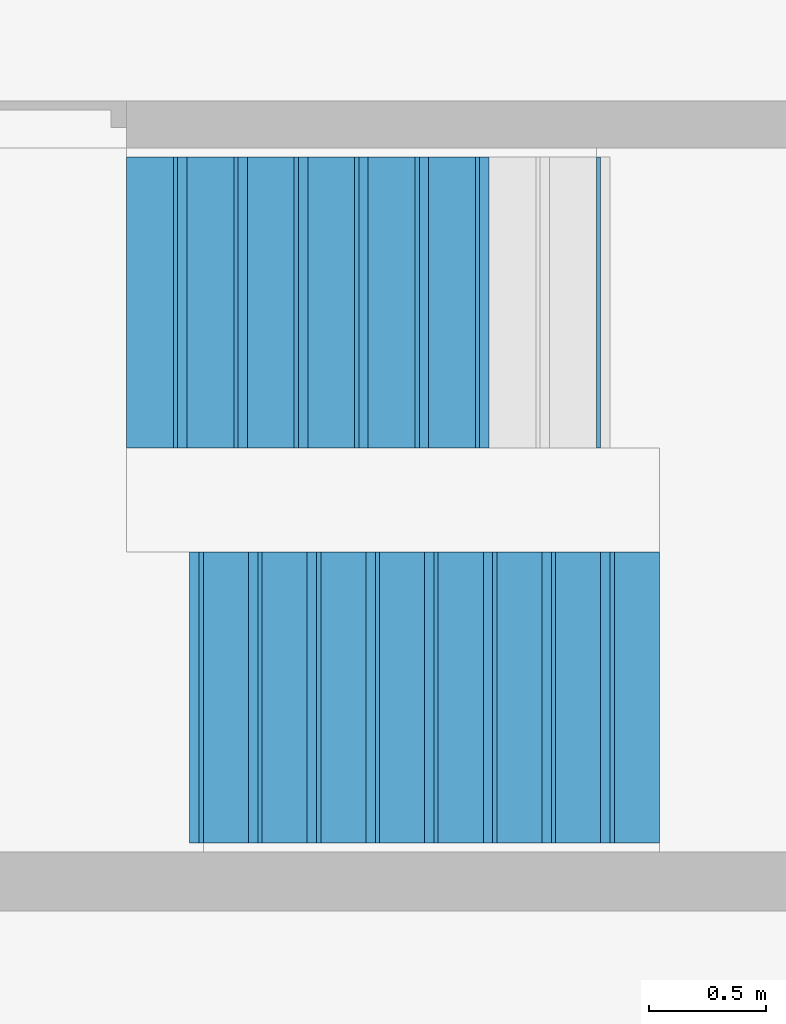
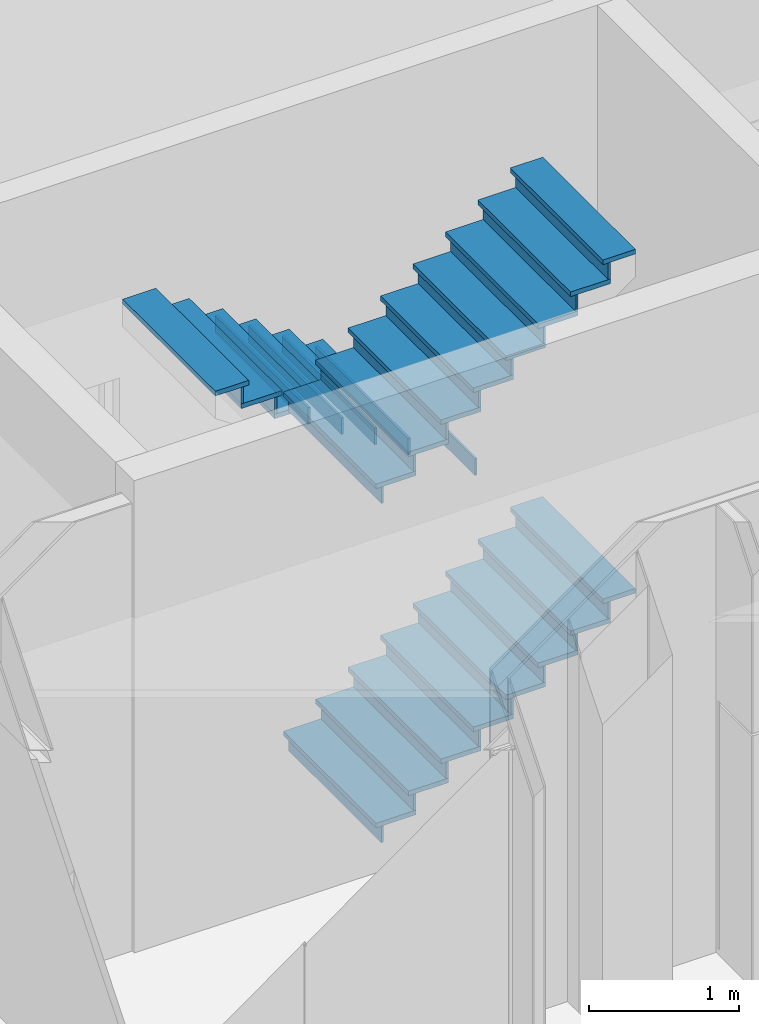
# One storey, part 58 of 135: 45 members, 3 elements without a shape of their own.
"""IFC2X3 building model written with IfcOpenShell, lengths in millimetres."""

import ifcopenshell
import ifcopenshell.guid

model = None  # the IFC model being written
_history = None  # IfcOwnerHistory: only IFC2X3 demands one
_inside = {}  # id of a spatial element -> (the spatial element, [elements in it])
_under = {}  # id of a project, library or spatial element -> (it, [spatial elements below it])
_declared = {}  # id of a project -> (the project, [libraries it declares])
_typed = {}  # id of a type object -> (the type object, [elements of that type])
_made_of = {}  # id of a material, layer set ... -> (it, [elements and type objects made of it])


def new_model(schema):
    """Start an empty IFC model of exactly this schema.

    Asked for "IFC4X3", IfcOpenShell would pick the latest addendum, in which some entities
    have other attributes; the version numbers below select the first issue.
    IFC2X3 requires an IfcOwnerHistory on every rooted entity: one is made here for all.
    """
    global model, _history
    if schema == "IFC4X3":
        model = ifcopenshell.file(schema_version=(4, 3, 0, 0))
    else:
        model = ifcopenshell.file(schema=schema)
    _inside.clear()
    _under.clear()
    _declared.clear()
    _typed.clear()
    _made_of.clear()
    _history = None
    if model.schema == "IFC2X3":
        org = make("IfcOrganization", Name="unknown")
        user = make(
            "IfcPersonAndOrganization",
            ThePerson=make("IfcPerson", FamilyName="unknown"),
            TheOrganization=org,
        )
        app = make(
            "IfcApplication",
            ApplicationDeveloper=org,
            Version="unknown",
            ApplicationFullName="unknown",
            ApplicationIdentifier="unknown",
        )
        _history = make(
            "IfcOwnerHistory",
            OwningUser=user,
            OwningApplication=app,
            ChangeAction="ADDED",
            CreationDate=0,
        )
    return model


def make(cls, **values):
    """One entity of the class cls with the attributes given. An attribute that is None is left unset."""
    return model.create_entity(
        cls, **{name: value for name, value in values.items() if value is not None}
    )


def entity(cls, *values):
    """Any entity or typed value of the class cls, its attributes in the order of the schema. None: left unset."""
    e = model.create_entity(cls)
    for i, value in enumerate(values):
        if value is not None:
            e[i] = value
    return e


def rooted(cls, **values):
    """An entity with a GlobalId (a new one), such as an element, a storey or a relation."""
    return make(cls, GlobalId=ifcopenshell.guid.new(), OwnerHistory=_history, **values)


def si_unit(unit_type, name, prefix=None):
    """IfcSIUnit, for example si_unit("LENGTHUNIT", "METRE", prefix="MILLI")."""
    return make("IfcSIUnit", UnitType=unit_type, Prefix=prefix, Name=name)


def converted_unit(unit_type, name, factor, base, dimensions=None, offset=None):
    """IfcConversionBasedUnit, such as the inch: factor (a typed value) times the base unit."""
    return make(
        "IfcConversionBasedUnit"
        if offset is None
        else "IfcConversionBasedUnitWithOffset",
        ConversionOffset=offset,
        Dimensions=None
        if dimensions is None
        else entity("IfcDimensionalExponents", *dimensions),
        UnitType=unit_type,
        Name=name,
        ConversionFactor=make(
            "IfcMeasureWithUnit", ValueComponent=factor, UnitComponent=base
        ),
    )


def derived_unit(unit_type, elements):
    """IfcDerivedUnit: a product of units, each with its exponent."""
    return make(
        "IfcDerivedUnit",
        Elements=[
            make("IfcDerivedUnitElement", Unit=unit, Exponent=power)
            for unit, power in elements
        ],
        UnitType=unit_type,
    )


def money_unit(currency):
    """IfcMonetaryUnit."""
    return make("IfcMonetaryUnit", Currency=currency)


def assignment(units):
    """IfcUnitAssignment: the units of a project."""
    return None if units is None else make("IfcUnitAssignment", Units=units)


def point(xyz):
    """IfcCartesianPoint."""
    return None if xyz is None else make("IfcCartesianPoint", Coordinates=xyz)


def direction(xyz):
    """IfcDirection."""
    return None if xyz is None else make("IfcDirection", DirectionRatios=xyz)


def frame(location, z_axis=None, x_axis=None):
    """IfcAxis2Placement3D, a coordinate frame: its origin and axes. An axis left out is left unset."""
    return make(
        "IfcAxis2Placement3D",
        Location=point(location),
        Axis=direction(z_axis),
        RefDirection=direction(x_axis),
    )


def origin_with_axes():
    """The frame at (0, 0, 0) with the z axis (0, 0, 1) and the x axis (1, 0, 0) written out."""
    return frame((0.0, 0.0, 0.0), z_axis=(0.0, 0.0, 1.0), x_axis=(1.0, 0.0, 0.0))


def place(relative_to, where):
    """IfcLocalPlacement: puts the frame where relative to a parent placement (None: the world)."""
    return make(
        "IfcLocalPlacement", PlacementRelTo=relative_to, RelativePlacement=where
    )


def context(
    kind, dimensions, precision=None, world=None, true_north=None, identifier=None
):
    """IfcGeometricRepresentationContext, for example the 3D "Model" context."""
    return make(
        "IfcGeometricRepresentationContext",
        ContextIdentifier=identifier,
        ContextType=kind,
        CoordinateSpaceDimension=dimensions,
        Precision=precision,
        WorldCoordinateSystem=world,
        TrueNorth=true_north,
    )


def subcontext(parent, identifier, kind, view, scale=None):
    """IfcGeometricRepresentationSubContext, for example "Body" below "Model"."""
    return make(
        "IfcGeometricRepresentationSubContext",
        ContextIdentifier=identifier,
        ContextType=kind,
        ParentContext=parent,
        TargetScale=scale,
        TargetView=view,
    )


def project(units=None, contexts=None):
    """IfcProject with its units and contexts."""
    return rooted(
        "IfcProject",
        Name="project",
        RepresentationContexts=contexts,
        UnitsInContext=assignment(units),
    )


def spatial(cls, under=None, at=None, **own):
    """A site, building, storey or space (cls), placed at a placement, below another one or the project."""
    s = rooted(cls, ObjectPlacement=at, **own)
    if under is not None:
        _under.setdefault(under.id(), (under, []))[1].append(s)
    return s


def faces_of(points, faces, orient=None, outer=None):
    """IfcFace entities. A face is a list of loops; a loop is a list of indices into points, from 0.

    orient and outer hold one flag for each loop. By default every Orientation is true, the
    first loop of a face is its IfcFaceOuterBound and the others are IfcFaceBound.
    """
    made = []
    for i, loops in enumerate(faces):
        bounds = []
        for j, loop in enumerate(loops):
            is_outer = j == 0 if outer is None else outer[i][j]
            bounds.append(
                make(
                    "IfcFaceOuterBound" if is_outer else "IfcFaceBound",
                    Bound=make("IfcPolyLoop", Polygon=[points[k] for k in loop]),
                    Orientation=True if orient is None else orient[i][j],
                )
            )
        made.append(make("IfcFace", Bounds=bounds))
    return made


def faceted_brep(points, faces, orient=None, outer=None, voids=None):
    """IfcFacetedBrep: a solid bounded by flat faces; with voids (closed shells), ...WithVoids."""
    shared = [point(p) for p in points]
    hull = make("IfcClosedShell", CfsFaces=faces_of(shared, faces, orient, outer))
    if voids is None:
        return make("IfcFacetedBrep", Outer=hull)
    return make(
        "IfcFacetedBrepWithVoids",
        Outer=hull,
        Voids=[
            make(cls, CfsFaces=faces_of(shared, fs, o, b)) for cls, fs, o, b in voids
        ],
    )


def shape(context_of_items, identifier, shape_type, items):
    """IfcShapeRepresentation: the items that make up one representation, for example the "Body"."""
    return make(
        "IfcShapeRepresentation",
        ContextOfItems=context_of_items,
        RepresentationIdentifier=identifier,
        RepresentationType=shape_type,
        Items=items,
    )


def material(Name=None, Category=None):
    """IfcMaterial."""
    return make("IfcMaterial", Name=Name, Category=Category)


def made_of(thing, what):
    """Note that an element or type object is made of a material, layer set ...; save() writes the relation."""
    if what is not None:
        _made_of.setdefault(what.id(), (what, []))[1].append(thing)
    return thing


def type_object(cls, material=None, **own):
    """A type object (cls), such as IfcWallType, which elements share."""
    return made_of(rooted(cls, **own), material)


def element(
    cls,
    number,
    at=None,
    inside=None,
    cuts=None,
    type_object=None,
    material=None,
    context=None,
    identifier="Body",
    shape_type=None,
    held_by="IfcProductDefinitionShape",
    body=None,
    shapes=None,
    **own,
):
    """One element of the class cls, such as IfcWall. Its Tag is "e" and its number.

    at: its placement. inside: the storey or other place that contains it. cuts: it is an
    opening in that element (IfcRelVoidsElement). A single representation is given by context,
    identifier, shape_type and body (its items); several are given by shapes. held_by: the class
    of the entity that holds the representations. save() writes the other relations.
    """
    e = rooted(cls, Tag="e%d" % number, ObjectPlacement=at, **own)
    if body is not None:
        shapes = [shape(context, identifier, shape_type, body)]
    if shapes is not None:
        e.Representation = make(held_by, Representations=shapes)
    if inside is not None:
        _inside.setdefault(inside.id(), (inside, []))[1].append(e)
    if cuts is not None:
        rooted(
            "IfcRelVoidsElement", RelatingBuildingElement=cuts, RelatedOpeningElement=e
        )
    if type_object is not None:
        _typed.setdefault(type_object.id(), (type_object, []))[1].append(e)
    return made_of(e, material)


def aggregate(whole, parts):
    """IfcRelAggregates: a whole, such as a stair, and the parts it consists of."""
    return rooted("IfcRelAggregates", RelatingObject=whole, RelatedObjects=parts)


def save(model, path):
    """Write the relations noted so far, then the file.

    IfcRelAggregates (storeys below a building ...), IfcRelContainedInSpatialStructure (elements
    in a storey), IfcRelDefinesByType, IfcRelAssociatesMaterial and IfcRelDeclares: one each for
    every whole, place, type object, material and project.
    """
    for whole, parts in _under.values():
        aggregate(whole, parts)
    for where, things in _inside.values():
        rooted(
            "IfcRelContainedInSpatialStructure",
            RelatedElements=things,
            RelatingStructure=where,
        )
    for kind, things in _typed.values():
        rooted("IfcRelDefinesByType", RelatedObjects=things, RelatingType=kind)
    for what, things in _made_of.values():
        rooted("IfcRelAssociatesMaterial", RelatedObjects=things, RelatingMaterial=what)
    for by, libraries in _declared.values():
        rooted("IfcRelDeclares", RelatingContext=by, RelatedDefinitions=libraries)
    model.write(path)


model = new_model("IFC2X3")

# Units and contexts
model_context = context("Model", 3, precision=0.01, world=origin_with_axes(), true_north=direction((0.0, 1.0)))
body_context = subcontext(model_context, "Body", "Model", "MODEL_VIEW")
ifc_project = project(units=[si_unit("LENGTHUNIT", "METRE", prefix="MILLI"), si_unit("AREAUNIT", "SQUARE_METRE"), si_unit("VOLUMEUNIT", "CUBIC_METRE"), converted_unit("PLANEANGLEUNIT", "DEGREE", entity("IfcPlaneAngleMeasure", 0.0174532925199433), si_unit("PLANEANGLEUNIT", "RADIAN"), dimensions=[0, 0, 0, 0, 0, 0, 0]), money_unit("EUR"), converted_unit("TIMEUNIT", "Year", entity("IfcTimeMeasure", 31557600.0), si_unit("TIMEUNIT", "SECOND"), dimensions=[0, 0, 1, 0, 0, 0, 0]), si_unit("MASSUNIT", "GRAM", prefix="KILO"), si_unit("THERMODYNAMICTEMPERATUREUNIT", "DEGREE_CELSIUS"), si_unit("LUMINOUSINTENSITYUNIT", "LUMEN"), si_unit("ENERGYUNIT", "JOULE", prefix="MEGA"), derived_unit("THERMALCONDUCTANCEUNIT", [(si_unit("POWERUNIT", "WATT"), 1), (si_unit("LENGTHUNIT", "METRE"), -1), (si_unit("THERMODYNAMICTEMPERATUREUNIT", "KELVIN"), -1)]), derived_unit("SPECIFICHEATCAPACITYUNIT", [(si_unit("ENERGYUNIT", "JOULE"), 1), (si_unit("MASSUNIT", "GRAM", prefix="KILO"), -1), (si_unit("THERMODYNAMICTEMPERATUREUNIT", "KELVIN"), -1)]), derived_unit("MASSDENSITYUNIT", [(si_unit("MASSUNIT", "GRAM", prefix="KILO"), 1), (si_unit("VOLUMEUNIT", "CUBIC_METRE"), -1)])], contexts=[model_context])

# Site, building, storey
site_placement = place(None, origin_with_axes())
site = spatial("IfcSite", under=ifc_project, at=site_placement, Name="Site", CompositionType="ELEMENT")
building_placement = place(site_placement, origin_with_axes())
building = spatial("IfcBuilding", under=site, at=building_placement, Name="Naam gebouw", CompositionType="ELEMENT")
storey_placement = place(building_placement, origin_with_axes())
storey = spatial("IfcBuildingStorey", under=building, at=storey_placement, Name="Begane grond N", CompositionType="ELEMENT", Elevation=0.0)

# Stair, members
stair_1_placement = place(storey_placement, frame((13939.64594946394, 14274.60803964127, -3.999999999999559), z_axis=(0.0, 0.0, 1.0), x_axis=(-1.0, 0.0, 0.0)))
stair_1 = element("IfcStair", 1, at=stair_1_placement, inside=storey, Name="_Trap-x", ShapeType="NOTDEFINED")
ifc_material = material(Name="Hout - Vloer")
member_type_1 = type_object("IfcMemberType", Name="IfcMember", PredefinedType="USERDEFINED")
member_1_placement = place(stair_1_placement, frame((0.0, 619.9999999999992, 173.5), z_axis=(0.0, 0.0, 1.0), x_axis=(0.0, 1.0, 0.0)))
member_1 = element("IfcMember", 2, at=member_1_placement, type_object=member_type_1, material=ifc_material, Name="_Traptrede-x", context=body_context, shape_type="Brep", body=[
    faceted_brep([(-620.0, 0.0, -38.0), (620.0, 0.0, -38.0), (620.0, 0.0, 0.0), (-620.0, 0.0, 0.0), (-620.0, 308.1068211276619, -38.0), (620.0, 308.1068211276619, -38.0), (620.0, 308.1068211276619, 0.0), (-620.0, 308.1068211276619, 0.0)], [[[0, 1, 2, 3]], [[0, 4, 5, 1]], [[1, 5, 6, 2]], [[3, 2, 6, 7]], [[4, 0, 3, 7]], [[5, 4, 7, 6]]]),
])
member_2_placement = place(stair_1_placement, frame((-250.1068211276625, 620.000000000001, 347.0), z_axis=(0.0, 0.0, 1.0), x_axis=(0.0, 1.0, 0.0)))
member_2 = element("IfcMember", 3, at=member_2_placement, type_object=member_type_1, material=ifc_material, Name="_Traptrede-x", context=body_context, shape_type="Brep", body=[
    faceted_brep([(-620.0, 0.0, -38.0), (620.0, 0.0, -38.0), (620.0, 0.0, 0.0), (-620.0, 0.0, 0.0), (-620.0, 308.1068211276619, -38.0), (620.0, 308.1068211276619, -38.0), (620.0, 308.1068211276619, 0.0), (-620.0, 308.1068211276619, 0.0)], [[[0, 1, 2, 3]], [[0, 4, 5, 1]], [[1, 5, 6, 2]], [[3, 2, 6, 7]], [[4, 0, 3, 7]], [[5, 4, 7, 6]]]),
])
member_3_placement = place(stair_1_placement, frame((-500.2136422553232, 620.000000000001, 520.5), z_axis=(0.0, 0.0, 1.0), x_axis=(0.0, 1.0, 0.0)))
member_3 = element("IfcMember", 4, at=member_3_placement, type_object=member_type_1, material=ifc_material, Name="_Traptrede-x", context=body_context, shape_type="Brep", body=[
    faceted_brep([(-620.0, 0.0, -38.0), (620.0, 0.0, -38.0), (620.0, 0.0, 0.0), (-620.0, 0.0, 0.0), (-620.0, 308.1068211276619, -38.0), (620.0, 308.1068211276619, -38.0), (620.0, 308.1068211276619, 0.0), (-620.0, 308.1068211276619, 0.0)], [[[0, 1, 2, 3]], [[0, 4, 5, 1]], [[1, 5, 6, 2]], [[3, 2, 6, 7]], [[4, 0, 3, 7]], [[5, 4, 7, 6]]]),
])
member_4_placement = place(stair_1_placement, frame((-1000.427284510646, 620.000000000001, 867.4999999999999), z_axis=(0.0, 0.0, 1.0), x_axis=(0.0, 1.0, 0.0)))
member_4 = element("IfcMember", 5, at=member_4_placement, type_object=member_type_1, material=ifc_material, Name="_Traptrede-x", context=body_context, shape_type="Brep", body=[
    faceted_brep([(-620.0, 0.0, -38.0), (620.0, 0.0, -38.0), (620.0, 0.0, 0.0), (-620.0, 0.0, 0.0), (-620.0, 308.1068211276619, -38.0), (620.0, 308.1068211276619, -38.0), (620.0, 308.1068211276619, 0.0), (-620.0, 308.1068211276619, 0.0)], [[[0, 1, 2, 3]], [[0, 4, 5, 1]], [[1, 5, 6, 2]], [[3, 2, 6, 7]], [[4, 0, 3, 7]], [[5, 4, 7, 6]]]),
])
member_5_placement = place(stair_1_placement, frame((-750.3204633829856, 620.000000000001, 694.0), z_axis=(0.0, 0.0, 1.0), x_axis=(0.0, 1.0, 0.0)))
member_5 = element("IfcMember", 6, at=member_5_placement, type_object=member_type_1, material=ifc_material, Name="_Traptrede-x", context=body_context, shape_type="Brep", body=[
    faceted_brep([(-620.0, 0.0, -38.0), (620.0, 0.0, -38.0), (620.0, 0.0, 0.0), (-620.0, 0.0, 0.0), (-620.0, 308.1068211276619, -38.0), (620.0, 308.1068211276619, -38.0), (620.0, 308.1068211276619, 0.0), (-620.0, 308.1068211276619, 0.0)], [[[0, 1, 2, 3]], [[0, 4, 5, 1]], [[1, 5, 6, 2]], [[3, 2, 6, 7]], [[4, 0, 3, 7]], [[5, 4, 7, 6]]]),
])
member_6_placement = place(stair_1_placement, frame((-1250.534105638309, 620.000000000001, 1041.0), z_axis=(0.0, 0.0, 1.0), x_axis=(0.0, 1.0, 0.0)))
member_6 = element("IfcMember", 7, at=member_6_placement, type_object=member_type_1, material=ifc_material, Name="_Traptrede-x", context=body_context, shape_type="Brep", body=[
    faceted_brep([(-620.0, 0.0, -38.0), (620.0, 0.0, -38.0), (620.0, 0.0, 0.0), (-620.0, 0.0, 0.0), (-620.0, 308.1068211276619, -38.0), (620.0, 308.1068211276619, -38.0), (620.0, 308.1068211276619, 0.0), (-620.0, 308.1068211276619, 0.0)], [[[0, 1, 2, 3]], [[0, 4, 5, 1]], [[1, 5, 6, 2]], [[3, 2, 6, 7]], [[4, 0, 3, 7]], [[5, 4, 7, 6]]]),
])
member_7_placement = place(stair_1_placement, frame((-1500.640926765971, 620.000000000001, 1214.5), z_axis=(0.0, 0.0, 1.0), x_axis=(0.0, 1.0, 0.0)))
member_7 = element("IfcMember", 8, at=member_7_placement, type_object=member_type_1, material=ifc_material, Name="_Traptrede-x", context=body_context, shape_type="Brep", body=[
    faceted_brep([(-620.0, 0.0, -38.0), (620.0, 0.0, -38.0), (620.0, 0.0, 0.0), (-620.0, 0.0, 0.0), (-620.0, 308.1068211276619, -38.0), (620.0, 308.1068211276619, -38.0), (620.0, 308.1068211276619, 0.0), (-620.0, 308.1068211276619, 0.0)], [[[0, 1, 2, 3]], [[0, 4, 5, 1]], [[1, 5, 6, 2]], [[3, 2, 6, 7]], [[4, 0, 3, 7]], [[5, 4, 7, 6]]]),
])
member_8_placement = place(stair_1_placement, frame((-1750.747747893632, 620.000000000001, 1388.0), z_axis=(0.0, 0.0, 1.0), x_axis=(0.0, 1.0, 0.0)))
member_8 = element("IfcMember", 9, at=member_8_placement, type_object=member_type_1, material=ifc_material, Name="_Traptrede-x", context=body_context, shape_type="Brep", body=[
    faceted_brep([(-620.0, 0.0, -38.0), (620.0, 0.0, -38.0), (620.0, 0.0, 0.0), (-620.0, 0.0, 0.0), (-620.0, 250.1068211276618, -38.0), (620.0, 250.1068211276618, -38.0), (620.0, 250.1068211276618, 0.0), (-620.0, 250.1068211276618, 0.0)], [[[0, 1, 2, 3]], [[0, 4, 5, 1]], [[1, 5, 6, 2]], [[3, 2, 6, 7]], [[4, 0, 3, 7]], [[5, 4, 7, 6]]]),
])

stair_2_placement = place(storey_placement, frame((13939.64594946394, 14274.60803964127, 2762.0), z_axis=(0.0, 0.0, 1.0), x_axis=(-1.0, 0.0, 0.0)))
stair_2 = element("IfcStair", 10, at=stair_2_placement, inside=storey, Name="_Trap-x", ShapeType="NOTDEFINED")
member_9_placement = place(stair_2_placement, frame((0.0, 619.9999999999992, 173.4999999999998), z_axis=(0.0, 0.0, 1.0), x_axis=(0.0, 1.0, 0.0)))
member_9 = element("IfcMember", 11, at=member_9_placement, type_object=member_type_1, material=ifc_material, Name="_Traptrede-x", context=body_context, shape_type="Brep", body=[
    faceted_brep([(-620.0, 0.0, -38.0), (620.0, 0.0, -38.0), (620.0, 0.0, 0.0), (-620.0, 0.0, 0.0), (-620.0, 308.1068211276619, -38.0), (620.0, 308.1068211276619, -38.0), (620.0, 308.1068211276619, 0.0), (-620.0, 308.1068211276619, 0.0)], [[[0, 1, 2, 3]], [[0, 4, 5, 1]], [[1, 5, 6, 2]], [[3, 2, 6, 7]], [[4, 0, 3, 7]], [[5, 4, 7, 6]]]),
])
member_10_placement = place(stair_2_placement, frame((-250.1068211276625, 620.000000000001, 347.0), z_axis=(0.0, 0.0, 1.0), x_axis=(0.0, 1.0, 0.0)))
member_10 = element("IfcMember", 12, at=member_10_placement, type_object=member_type_1, material=ifc_material, Name="_Traptrede-x", context=body_context, shape_type="Brep", body=[
    faceted_brep([(-620.0, 0.0, -38.0), (620.0, 0.0, -38.0), (620.0, 0.0, 0.0), (-620.0, 0.0, 0.0), (-620.0, 308.1068211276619, -38.0), (620.0, 308.1068211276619, -38.0), (620.0, 308.1068211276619, 0.0), (-620.0, 308.1068211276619, 0.0)], [[[0, 1, 2, 3]], [[0, 4, 5, 1]], [[1, 5, 6, 2]], [[3, 2, 6, 7]], [[4, 0, 3, 7]], [[5, 4, 7, 6]]]),
])
member_11_placement = place(stair_2_placement, frame((-750.3204633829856, 620.000000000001, 694.0), z_axis=(0.0, 0.0, 1.0), x_axis=(0.0, 1.0, 0.0)))
member_11 = element("IfcMember", 13, at=member_11_placement, type_object=member_type_1, material=ifc_material, Name="_Traptrede-x", context=body_context, shape_type="Brep", body=[
    faceted_brep([(-620.0, 0.0, -38.0), (620.0, 0.0, -38.0), (620.0, 0.0, 0.0), (-620.0, 0.0, 0.0), (-620.0, 308.1068211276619, -38.0), (620.0, 308.1068211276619, -38.0), (620.0, 308.1068211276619, 0.0), (-620.0, 308.1068211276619, 0.0)], [[[0, 1, 2, 3]], [[0, 4, 5, 1]], [[1, 5, 6, 2]], [[3, 2, 6, 7]], [[4, 0, 3, 7]], [[5, 4, 7, 6]]]),
])
member_12_placement = place(stair_2_placement, frame((-500.2136422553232, 620.000000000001, 520.5000000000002), z_axis=(0.0, 0.0, 1.0), x_axis=(0.0, 1.0, 0.0)))
member_12 = element("IfcMember", 14, at=member_12_placement, type_object=member_type_1, material=ifc_material, Name="_Traptrede-x", context=body_context, shape_type="Brep", body=[
    faceted_brep([(-620.0, 0.0, -38.0), (620.0, 0.0, -38.0), (620.0, 0.0, 0.0), (-620.0, 0.0, 0.0), (-620.0, 308.1068211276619, -38.0), (620.0, 308.1068211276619, -38.0), (620.0, 308.1068211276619, 0.0), (-620.0, 308.1068211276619, 0.0)], [[[0, 1, 2, 3]], [[0, 4, 5, 1]], [[1, 5, 6, 2]], [[3, 2, 6, 7]], [[4, 0, 3, 7]], [[5, 4, 7, 6]]]),
])
member_13_placement = place(stair_2_placement, frame((-1000.427284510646, 620.000000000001, 867.4999999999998), z_axis=(0.0, 0.0, 1.0), x_axis=(0.0, 1.0, 0.0)))
member_13 = element("IfcMember", 15, at=member_13_placement, type_object=member_type_1, material=ifc_material, Name="_Traptrede-x", context=body_context, shape_type="Brep", body=[
    faceted_brep([(-620.0, 0.0, -38.0), (620.0, 0.0, -38.0), (620.0, 0.0, 0.0), (-620.0, 0.0, 0.0), (-620.0, 308.1068211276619, -38.0), (620.0, 308.1068211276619, -38.0), (620.0, 308.1068211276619, 0.0), (-620.0, 308.1068211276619, 0.0)], [[[0, 1, 2, 3]], [[0, 4, 5, 1]], [[1, 5, 6, 2]], [[3, 2, 6, 7]], [[4, 0, 3, 7]], [[5, 4, 7, 6]]]),
])
member_14_placement = place(stair_2_placement, frame((-1250.534105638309, 620.000000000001, 1041.0), z_axis=(0.0, 0.0, 1.0), x_axis=(0.0, 1.0, 0.0)))
member_14 = element("IfcMember", 16, at=member_14_placement, type_object=member_type_1, material=ifc_material, Name="_Traptrede-x", context=body_context, shape_type="Brep", body=[
    faceted_brep([(-620.0, 0.0, -38.0), (620.0, 0.0, -38.0), (620.0, 0.0, 0.0), (-620.0, 0.0, 0.0), (-620.0, 308.1068211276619, -38.0), (620.0, 308.1068211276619, -38.0), (620.0, 308.1068211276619, 0.0), (-620.0, 308.1068211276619, 0.0)], [[[0, 1, 2, 3]], [[0, 4, 5, 1]], [[1, 5, 6, 2]], [[3, 2, 6, 7]], [[4, 0, 3, 7]], [[5, 4, 7, 6]]]),
])
member_15_placement = place(stair_2_placement, frame((-1500.640926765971, 620.000000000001, 1214.5), z_axis=(0.0, 0.0, 1.0), x_axis=(0.0, 1.0, 0.0)))
member_15 = element("IfcMember", 17, at=member_15_placement, type_object=member_type_1, material=ifc_material, Name="_Traptrede-x", context=body_context, shape_type="Brep", body=[
    faceted_brep([(-620.0, 0.0, -38.0), (620.0, 0.0, -38.0), (620.0, 0.0, 0.0), (-620.0, 0.0, 0.0), (-620.0, 308.1068211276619, -38.0), (620.0, 308.1068211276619, -38.0), (620.0, 308.1068211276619, 0.0), (-620.0, 308.1068211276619, 0.0)], [[[0, 1, 2, 3]], [[0, 4, 5, 1]], [[1, 5, 6, 2]], [[3, 2, 6, 7]], [[4, 0, 3, 7]], [[5, 4, 7, 6]]]),
])
member_16_placement = place(stair_2_placement, frame((-1750.747747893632, 620.000000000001, 1388.0), z_axis=(0.0, 0.0, 1.0), x_axis=(0.0, 1.0, 0.0)))
member_16 = element("IfcMember", 18, at=member_16_placement, type_object=member_type_1, material=ifc_material, Name="_Traptrede-x", context=body_context, shape_type="Brep", body=[
    faceted_brep([(-620.0, 0.0, -38.0), (620.0, 0.0, -38.0), (620.0, 0.0, 0.0), (-620.0, 0.0, 0.0), (-620.0, 250.1068211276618, -38.0), (620.0, 250.1068211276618, -38.0), (620.0, 250.1068211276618, 0.0), (-620.0, 250.1068211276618, 0.0)], [[[0, 1, 2, 3]], [[0, 4, 5, 1]], [[1, 5, 6, 2]], [[3, 2, 6, 7]], [[4, 0, 3, 7]], [[5, 4, 7, 6]]]),
])

stair_3_placement = place(storey_placement, frame((15729.70019705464, 14715.92025998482, 1379.0), z_axis=(0.0, 0.0, 1.0), x_axis=(1.0, 0.0, 0.0)))
stair_3 = element("IfcStair", 19, at=stair_3_placement, inside=storey, Name="_Trap-x", ShapeType="NOTDEFINED")
member_17_placement = place(stair_3_placement, frame((-514.7999196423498, 619.9999999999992, 520.5), z_axis=(0.0, 0.0, 1.0), x_axis=(0.0, 1.0, 0.0)))
member_17 = element("IfcMember", 20, at=member_17_placement, type_object=member_type_1, material=ifc_material, Name="_Traptrede-x", context=body_context, shape_type="Brep", body=[
    faceted_brep([(-620.0, 0.0, -38.0), (620.0, 0.0, -38.0), (620.0, 0.0, 0.0), (-620.0, 0.0, 0.0), (-620.0, 315.3999598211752, -38.0), (620.0, 315.3999598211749, -38.0), (620.0, 315.3999598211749, 0.0), (-620.0, 315.3999598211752, 0.0)], [[[0, 1, 2, 3]], [[0, 4, 5, 1]], [[1, 5, 6, 2]], [[3, 2, 6, 7]], [[4, 0, 3, 7]], [[5, 4, 7, 6]]]),
])
member_18_placement = place(stair_3_placement, frame((-1286.999799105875, 619.9999999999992, 1041.0), z_axis=(0.0, 0.0, 1.0), x_axis=(0.0, 1.0, 0.0)))
member_18 = element("IfcMember", 21, at=member_18_placement, type_object=member_type_1, material=ifc_material, Name="_Traptrede-x", context=body_context, shape_type="Brep", body=[
    faceted_brep([(-620.0, 0.0, -38.0), (620.0, 0.0, -38.0), (620.0, 0.0, 0.0), (-620.0, 0.0, 0.0), (-620.0, 315.3999598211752, -38.0), (620.0, 315.3999598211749, -38.0), (620.0, 315.3999598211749, 0.0), (-620.0, 315.3999598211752, 0.0)], [[[0, 1, 2, 3]], [[0, 4, 5, 1]], [[1, 5, 6, 2]], [[3, 2, 6, 7]], [[4, 0, 3, 7]], [[5, 4, 7, 6]]]),
])
member_19_placement = place(stair_3_placement, frame((-1029.5998392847, 619.9999999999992, 867.4999999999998), z_axis=(0.0, 0.0, 1.0), x_axis=(0.0, 1.0, 0.0)))
member_19 = element("IfcMember", 22, at=member_19_placement, type_object=member_type_1, material=ifc_material, Name="_Traptrede-x", context=body_context, shape_type="Brep", body=[
    faceted_brep([(-620.0, 0.0, -38.0), (620.0, 0.0, -38.0), (620.0, 0.0, 0.0), (-620.0, 0.0, 0.0), (-620.0, 315.3999598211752, -38.0), (620.0, 315.3999598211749, -38.0), (620.0, 315.3999598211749, 0.0), (-620.0, 315.3999598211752, 0.0)], [[[0, 1, 2, 3]], [[0, 4, 5, 1]], [[1, 5, 6, 2]], [[3, 2, 6, 7]], [[4, 0, 3, 7]], [[5, 4, 7, 6]]]),
])
member_20_placement = place(stair_3_placement, frame((-1544.39975892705, 619.9999999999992, 1214.5), z_axis=(0.0, 0.0, 1.0), x_axis=(0.0, 1.0, 0.0)))
member_20 = element("IfcMember", 23, at=member_20_placement, type_object=member_type_1, material=ifc_material, Name="_Traptrede-x", context=body_context, shape_type="Brep", body=[
    faceted_brep([(-620.0, 0.0, -38.0), (620.0, 0.0, -38.0), (620.0, 0.0, 0.0), (-620.0, 0.0, 0.0), (-620.0, 315.3999598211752, -38.0), (620.0, 315.3999598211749, -38.0), (620.0, 315.3999598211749, 0.0), (-620.0, 315.3999598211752, 0.0)], [[[0, 1, 2, 3]], [[0, 4, 5, 1]], [[1, 5, 6, 2]], [[3, 2, 6, 7]], [[4, 0, 3, 7]], [[5, 4, 7, 6]]]),
])
member_21_placement = place(stair_3_placement, frame((-1801.799718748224, 619.9999999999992, 1388.0), z_axis=(0.0, 0.0, 1.0), x_axis=(0.0, 1.0, 0.0)))
member_21 = element("IfcMember", 24, at=member_21_placement, type_object=member_type_1, material=ifc_material, Name="_Traptrede-x", context=body_context, shape_type="Brep", body=[
    faceted_brep([(-620.0, 0.0, -38.0), (619.9999999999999, 0.0, -38.0), (619.9999999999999, 0.0, 0.0), (-620.0, 0.0, 0.0), (-620.0, 257.3999598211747, -38.0), (620.0000000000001, 257.3999598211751, -38.0), (620.0000000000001, 257.3999598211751, 0.0), (-620.0, 257.3999598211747, 0.0)], [[[0, 1, 2, 3]], [[0, 4, 5, 1]], [[1, 5, 6, 2]], [[3, 2, 6, 7]], [[4, 0, 3, 7]], [[5, 4, 7, 6]]]),
])
member_22_placement = place(stair_3_placement, frame((-772.1998794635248, 619.9999999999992, 694.0), z_axis=(0.0, 0.0, 1.0), x_axis=(0.0, 1.0, 0.0)))
member_22 = element("IfcMember", 25, at=member_22_placement, type_object=member_type_1, material=ifc_material, Name="_Traptrede-x", context=body_context, shape_type="Brep", body=[
    faceted_brep([(-620.0, 0.0, -38.0), (620.0, 0.0, -38.0), (620.0, 0.0, 0.0), (-620.0, 0.0, 0.0), (-620.0, 315.3999598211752, -38.0), (620.0, 315.3999598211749, -38.0), (620.0, 315.3999598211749, 0.0), (-620.0, 315.3999598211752, 0.0)], [[[0, 1, 2, 3]], [[0, 4, 5, 1]], [[1, 5, 6, 2]], [[3, 2, 6, 7]], [[4, 0, 3, 7]], [[5, 4, 7, 6]]]),
])

# Member
member_type_2 = type_object("IfcMemberType", Name="IfcMember", PredefinedType="USERDEFINED")
member_23_placement = place(stair_1_placement, frame((0.0, 619.9999999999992, 135.5), z_axis=(0.0, 0.0, 1.0), x_axis=(0.0, 1.0, 0.0)))
member_23 = element("IfcMember", 26, at=member_23_placement, type_object=member_type_2, material=ifc_material, Name="_Stootbord-x", context=body_context, shape_type="Brep", body=[
    faceted_brep([(620.0, 40.0, 0.0), (620.0, 57.99999999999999, 0.0), (-620.0, 58.00000000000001, 0.0), (-620.0, 40.00000000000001, 0.0), (620.0, 40.00000000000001, -135.5), (620.0, 58.00000000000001, -135.5), (-620.0, 58.00000000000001, -135.5), (-620.0, 40.00000000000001, -135.5)], [[[0, 1, 2, 3]], [[0, 4, 5, 1]], [[1, 5, 6, 2]], [[3, 2, 6, 7]], [[4, 0, 3, 7]], [[5, 4, 7, 6]]]),
])

member_24_placement = place(stair_1_placement, frame((-250.1068211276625, 620.000000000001, 309.0), z_axis=(0.0, 0.0, 1.0), x_axis=(0.0, 1.0, 0.0)))
member_24 = element("IfcMember", 27, at=member_24_placement, type_object=member_type_2, material=ifc_material, Name="_Stootbord-x", context=body_context, shape_type="Brep", body=[
    faceted_brep([(620.0, 40.0, 0.0), (620.0, 57.99999999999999, 0.0), (-620.0, 58.00000000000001, 0.0), (-620.0, 40.00000000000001, 0.0), (620.0, 40.00000000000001, -135.5), (620.0, 58.00000000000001, -135.5), (-620.0, 58.00000000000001, -135.5), (-620.0, 40.00000000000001, -135.5)], [[[0, 1, 2, 3]], [[0, 4, 5, 1]], [[1, 5, 6, 2]], [[3, 2, 6, 7]], [[4, 0, 3, 7]], [[5, 4, 7, 6]]]),
])

member_25_placement = place(stair_1_placement, frame((-500.2136422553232, 620.000000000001, 482.5), z_axis=(0.0, 0.0, 1.0), x_axis=(0.0, 1.0, 0.0)))
member_25 = element("IfcMember", 28, at=member_25_placement, type_object=member_type_2, material=ifc_material, Name="_Stootbord-x", context=body_context, shape_type="Brep", body=[
    faceted_brep([(620.0, 40.0, 0.0), (620.0, 57.99999999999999, 0.0), (-620.0, 58.00000000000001, 0.0), (-620.0, 40.00000000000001, 0.0), (620.0, 40.00000000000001, -135.5), (620.0, 58.00000000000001, -135.5), (-620.0, 58.00000000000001, -135.5), (-620.0, 40.00000000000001, -135.5)], [[[0, 1, 2, 3]], [[0, 4, 5, 1]], [[1, 5, 6, 2]], [[3, 2, 6, 7]], [[4, 0, 3, 7]], [[5, 4, 7, 6]]]),
])

member_26_placement = place(stair_1_placement, frame((-750.3204633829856, 620.000000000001, 655.9999999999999), z_axis=(0.0, 0.0, 1.0), x_axis=(0.0, 1.0, 0.0)))
member_26 = element("IfcMember", 29, at=member_26_placement, type_object=member_type_2, material=ifc_material, Name="_Stootbord-x", context=body_context, shape_type="Brep", body=[
    faceted_brep([(620.0, 40.0, 0.0), (620.0, 57.99999999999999, 0.0), (-620.0, 58.00000000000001, 0.0), (-620.0, 40.00000000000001, 0.0), (620.0, 40.00000000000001, -135.5), (620.0, 58.00000000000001, -135.5), (-620.0, 58.00000000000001, -135.5), (-620.0, 40.00000000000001, -135.5)], [[[0, 1, 2, 3]], [[0, 4, 5, 1]], [[1, 5, 6, 2]], [[3, 2, 6, 7]], [[4, 0, 3, 7]], [[5, 4, 7, 6]]]),
])

member_27_placement = place(stair_1_placement, frame((-1000.427284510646, 620.000000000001, 829.4999999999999), z_axis=(0.0, 0.0, 1.0), x_axis=(0.0, 1.0, 0.0)))
member_27 = element("IfcMember", 30, at=member_27_placement, type_object=member_type_2, material=ifc_material, Name="_Stootbord-x", context=body_context, shape_type="Brep", body=[
    faceted_brep([(620.0, 40.0, 0.0), (620.0, 57.99999999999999, 0.0), (-620.0, 58.00000000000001, 0.0), (-620.0, 40.00000000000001, 0.0), (620.0, 40.00000000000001, -135.5), (620.0, 58.00000000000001, -135.5), (-620.0, 58.00000000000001, -135.5), (-620.0, 40.00000000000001, -135.5)], [[[0, 1, 2, 3]], [[0, 4, 5, 1]], [[1, 5, 6, 2]], [[3, 2, 6, 7]], [[4, 0, 3, 7]], [[5, 4, 7, 6]]]),
])

member_28_placement = place(stair_1_placement, frame((-1500.640926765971, 620.000000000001, 1176.5), z_axis=(0.0, 0.0, 1.0), x_axis=(0.0, 1.0, 0.0)))
member_28 = element("IfcMember", 31, at=member_28_placement, type_object=member_type_2, material=ifc_material, Name="_Stootbord-x", context=body_context, shape_type="Brep", body=[
    faceted_brep([(620.0, 40.0, 0.0), (620.0, 57.99999999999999, 0.0), (-620.0, 58.00000000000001, 0.0), (-620.0, 40.00000000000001, 0.0), (620.0, 40.00000000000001, -135.5), (620.0, 58.00000000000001, -135.5), (-620.0, 58.00000000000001, -135.5), (-620.0, 40.00000000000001, -135.5)], [[[0, 1, 2, 3]], [[0, 4, 5, 1]], [[1, 5, 6, 2]], [[3, 2, 6, 7]], [[4, 0, 3, 7]], [[5, 4, 7, 6]]]),
])

member_29_placement = place(stair_1_placement, frame((-1250.534105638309, 620.000000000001, 1003.0), z_axis=(0.0, 0.0, 1.0), x_axis=(0.0, 1.0, 0.0)))
member_29 = element("IfcMember", 32, at=member_29_placement, type_object=member_type_2, material=ifc_material, Name="_Stootbord-x", context=body_context, shape_type="Brep", body=[
    faceted_brep([(620.0, 40.0, 0.0), (620.0, 57.99999999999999, 0.0), (-620.0, 58.00000000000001, 0.0), (-620.0, 40.00000000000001, 0.0), (620.0, 40.00000000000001, -135.5), (620.0, 58.00000000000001, -135.5), (-620.0, 58.00000000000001, -135.5), (-620.0, 40.00000000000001, -135.5)], [[[0, 1, 2, 3]], [[0, 4, 5, 1]], [[1, 5, 6, 2]], [[3, 2, 6, 7]], [[4, 0, 3, 7]], [[5, 4, 7, 6]]]),
])

member_30_placement = place(stair_1_placement, frame((-1750.747747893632, 620.000000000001, 1350.0), z_axis=(0.0, 0.0, 1.0), x_axis=(0.0, 1.0, 0.0)))
member_30 = element("IfcMember", 33, at=member_30_placement, type_object=member_type_2, material=ifc_material, Name="_Stootbord-x", context=body_context, shape_type="Brep", body=[
    faceted_brep([(620.0, 40.0, 0.0), (620.0, 57.99999999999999, 0.0), (-620.0, 58.00000000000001, 0.0), (-620.0, 40.00000000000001, 0.0), (620.0, 40.00000000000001, -135.5), (620.0, 58.00000000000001, -135.5), (-620.0, 58.00000000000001, -135.5), (-620.0, 40.00000000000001, -135.5)], [[[0, 1, 2, 3]], [[0, 4, 5, 1]], [[1, 5, 6, 2]], [[3, 2, 6, 7]], [[4, 0, 3, 7]], [[5, 4, 7, 6]]]),
])

aggregate(stair_1, [member_23, member_24, member_25, member_26, member_27, member_28, member_29, member_30, member_1, member_2, member_3, member_4, member_5, member_6, member_7, member_8])

member_31_placement = place(stair_2_placement, frame((0.0, 619.9999999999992, 135.4999999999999), z_axis=(0.0, 0.0, 1.0), x_axis=(0.0, 1.0, 0.0)))
member_31 = element("IfcMember", 34, at=member_31_placement, type_object=member_type_2, material=ifc_material, Name="_Stootbord-x", context=body_context, shape_type="Brep", body=[
    faceted_brep([(620.0, 40.0, 0.0), (620.0, 57.99999999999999, 0.0), (-620.0, 58.00000000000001, 0.0), (-620.0, 40.00000000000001, 0.0), (620.0, 40.00000000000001, -135.5), (620.0, 58.00000000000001, -135.5), (-620.0, 58.00000000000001, -135.5), (-620.0, 40.00000000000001, -135.5)], [[[0, 1, 2, 3]], [[0, 4, 5, 1]], [[1, 5, 6, 2]], [[3, 2, 6, 7]], [[4, 0, 3, 7]], [[5, 4, 7, 6]]]),
])

member_32_placement = place(stair_2_placement, frame((-250.1068211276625, 620.000000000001, 309.0000000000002), z_axis=(0.0, 0.0, 1.0), x_axis=(0.0, 1.0, 0.0)))
member_32 = element("IfcMember", 35, at=member_32_placement, type_object=member_type_2, material=ifc_material, Name="_Stootbord-x", context=body_context, shape_type="Brep", body=[
    faceted_brep([(620.0, 40.0, 0.0), (620.0, 57.99999999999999, 0.0), (-620.0, 58.00000000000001, 0.0), (-620.0, 40.00000000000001, 0.0), (620.0, 40.00000000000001, -135.5), (620.0, 58.00000000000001, -135.5), (-620.0, 58.00000000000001, -135.5), (-620.0, 40.00000000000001, -135.5)], [[[0, 1, 2, 3]], [[0, 4, 5, 1]], [[1, 5, 6, 2]], [[3, 2, 6, 7]], [[4, 0, 3, 7]], [[5, 4, 7, 6]]]),
])

member_33_placement = place(stair_2_placement, frame((-1000.427284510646, 620.000000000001, 829.4999999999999), z_axis=(0.0, 0.0, 1.0), x_axis=(0.0, 1.0, 0.0)))
member_33 = element("IfcMember", 36, at=member_33_placement, type_object=member_type_2, material=ifc_material, Name="_Stootbord-x", context=body_context, shape_type="Brep", body=[
    faceted_brep([(620.0, 40.0, 0.0), (620.0, 57.99999999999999, 0.0), (-620.0, 58.00000000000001, 0.0), (-620.0, 40.00000000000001, 0.0), (620.0, 40.00000000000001, -135.5), (620.0, 58.00000000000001, -135.5), (-620.0, 58.00000000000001, -135.5), (-620.0, 40.00000000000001, -135.5)], [[[0, 1, 2, 3]], [[0, 4, 5, 1]], [[1, 5, 6, 2]], [[3, 2, 6, 7]], [[4, 0, 3, 7]], [[5, 4, 7, 6]]]),
])

member_34_placement = place(stair_2_placement, frame((-1250.534105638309, 620.000000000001, 1003.0), z_axis=(0.0, 0.0, 1.0), x_axis=(0.0, 1.0, 0.0)))
member_34 = element("IfcMember", 37, at=member_34_placement, type_object=member_type_2, material=ifc_material, Name="_Stootbord-x", context=body_context, shape_type="Brep", body=[
    faceted_brep([(620.0, 40.0, 0.0), (620.0, 57.99999999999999, 0.0), (-620.0, 58.00000000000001, 0.0), (-620.0, 40.00000000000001, 0.0), (620.0, 40.00000000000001, -135.5), (620.0, 58.00000000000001, -135.5), (-620.0, 58.00000000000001, -135.5), (-620.0, 40.00000000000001, -135.5)], [[[0, 1, 2, 3]], [[0, 4, 5, 1]], [[1, 5, 6, 2]], [[3, 2, 6, 7]], [[4, 0, 3, 7]], [[5, 4, 7, 6]]]),
])

member_35_placement = place(stair_2_placement, frame((-1500.640926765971, 620.000000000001, 1176.5), z_axis=(0.0, 0.0, 1.0), x_axis=(0.0, 1.0, 0.0)))
member_35 = element("IfcMember", 38, at=member_35_placement, type_object=member_type_2, material=ifc_material, Name="_Stootbord-x", context=body_context, shape_type="Brep", body=[
    faceted_brep([(620.0, 40.0, 0.0), (620.0, 57.99999999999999, 0.0), (-620.0, 58.00000000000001, 0.0), (-620.0, 40.00000000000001, 0.0), (620.0, 40.00000000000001, -135.5), (620.0, 58.00000000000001, -135.5), (-620.0, 58.00000000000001, -135.5), (-620.0, 40.00000000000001, -135.5)], [[[0, 1, 2, 3]], [[0, 4, 5, 1]], [[1, 5, 6, 2]], [[3, 2, 6, 7]], [[4, 0, 3, 7]], [[5, 4, 7, 6]]]),
])

member_36_placement = place(stair_2_placement, frame((-500.2136422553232, 620.000000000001, 482.4999999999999), z_axis=(0.0, 0.0, 1.0), x_axis=(0.0, 1.0, 0.0)))
member_36 = element("IfcMember", 39, at=member_36_placement, type_object=member_type_2, material=ifc_material, Name="_Stootbord-x", context=body_context, shape_type="Brep", body=[
    faceted_brep([(620.0, 40.0, 0.0), (620.0, 57.99999999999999, 0.0), (-620.0, 58.00000000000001, 0.0), (-620.0, 40.00000000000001, 0.0), (620.0, 40.00000000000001, -135.5), (620.0, 58.00000000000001, -135.5), (-620.0, 58.00000000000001, -135.5), (-620.0, 40.00000000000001, -135.5)], [[[0, 1, 2, 3]], [[0, 4, 5, 1]], [[1, 5, 6, 2]], [[3, 2, 6, 7]], [[4, 0, 3, 7]], [[5, 4, 7, 6]]]),
])

member_37_placement = place(stair_2_placement, frame((-1750.747747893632, 620.000000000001, 1350.0), z_axis=(0.0, 0.0, 1.0), x_axis=(0.0, 1.0, 0.0)))
member_37 = element("IfcMember", 40, at=member_37_placement, type_object=member_type_2, material=ifc_material, Name="_Stootbord-x", context=body_context, shape_type="Brep", body=[
    faceted_brep([(620.0, 40.0, 0.0), (620.0, 57.99999999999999, 0.0), (-620.0, 58.00000000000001, 0.0), (-620.0, 40.00000000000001, 0.0), (620.0, 40.00000000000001, -135.5), (620.0, 58.00000000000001, -135.5), (-620.0, 58.00000000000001, -135.5), (-620.0, 40.00000000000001, -135.5)], [[[0, 1, 2, 3]], [[0, 4, 5, 1]], [[1, 5, 6, 2]], [[3, 2, 6, 7]], [[4, 0, 3, 7]], [[5, 4, 7, 6]]]),
])

member_38_placement = place(stair_2_placement, frame((-750.3204633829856, 620.000000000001, 655.9999999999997), z_axis=(0.0, 0.0, 1.0), x_axis=(0.0, 1.0, 0.0)))
member_38 = element("IfcMember", 41, at=member_38_placement, type_object=member_type_2, material=ifc_material, Name="_Stootbord-x", context=body_context, shape_type="Brep", body=[
    faceted_brep([(620.0, 40.0, 0.0), (620.0, 57.99999999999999, 0.0), (-620.0, 58.00000000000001, 0.0), (-620.0, 40.00000000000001, 0.0), (620.0, 40.00000000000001, -135.5), (620.0, 58.00000000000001, -135.5), (-620.0, 58.00000000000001, -135.5), (-620.0, 40.00000000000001, -135.5)], [[[0, 1, 2, 3]], [[0, 4, 5, 1]], [[1, 5, 6, 2]], [[3, 2, 6, 7]], [[4, 0, 3, 7]], [[5, 4, 7, 6]]]),
])

aggregate(stair_2, [member_31, member_32, member_33, member_34, member_35, member_36, member_37, member_38, member_9, member_10, member_11, member_12, member_13, member_14, member_15, member_16])

member_39_placement = place(stair_3_placement, frame((0.0, 619.9999999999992, 135.4999999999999), z_axis=(0.0, 0.0, 1.0), x_axis=(0.0, 1.0, 0.0)))
member_39 = element("IfcMember", 42, at=member_39_placement, type_object=member_type_2, material=ifc_material, Name="_Stootbord-x", context=body_context, shape_type="Brep", body=[
    faceted_brep([(620.0, 40.0, 0.0), (620.0, 57.99999999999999, 0.0), (-620.0, 58.00000000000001, 0.0), (-620.0, 40.00000000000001, 0.0), (620.0, 40.00000000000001, -135.5), (620.0, 58.00000000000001, -135.5), (-620.0, 58.00000000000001, -135.5), (-620.0, 40.00000000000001, -135.5)], [[[0, 1, 2, 3]], [[0, 4, 5, 1]], [[1, 5, 6, 2]], [[3, 2, 6, 7]], [[4, 0, 3, 7]], [[5, 4, 7, 6]]]),
])

member_40_placement = place(stair_3_placement, frame((-772.1998794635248, 619.9999999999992, 655.9999999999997), z_axis=(0.0, 0.0, 1.0), x_axis=(0.0, 1.0, 0.0)))
member_40 = element("IfcMember", 43, at=member_40_placement, type_object=member_type_2, material=ifc_material, Name="_Stootbord-x", context=body_context, shape_type="Brep", body=[
    faceted_brep([(620.0, 40.0, 0.0), (620.0, 57.99999999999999, 0.0), (-620.0, 58.00000000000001, 0.0), (-620.0, 40.00000000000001, 0.0), (620.0, 40.00000000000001, -135.5), (620.0, 58.00000000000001, -135.5), (-620.0, 58.00000000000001, -135.5), (-620.0, 40.00000000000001, -135.5)], [[[0, 1, 2, 3]], [[0, 4, 5, 1]], [[1, 5, 6, 2]], [[3, 2, 6, 7]], [[4, 0, 3, 7]], [[5, 4, 7, 6]]]),
])

member_41_placement = place(stair_3_placement, frame((-514.7999196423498, 619.9999999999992, 482.4999999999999), z_axis=(0.0, 0.0, 1.0), x_axis=(0.0, 1.0, 0.0)))
member_41 = element("IfcMember", 44, at=member_41_placement, type_object=member_type_2, material=ifc_material, Name="_Stootbord-x", context=body_context, shape_type="Brep", body=[
    faceted_brep([(620.0, 40.0, 0.0), (620.0, 57.99999999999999, 0.0), (-620.0, 58.00000000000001, 0.0), (-620.0, 40.00000000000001, 0.0), (620.0, 40.00000000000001, -135.5), (620.0, 58.00000000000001, -135.5), (-620.0, 58.00000000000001, -135.5), (-620.0, 40.00000000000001, -135.5)], [[[0, 1, 2, 3]], [[0, 4, 5, 1]], [[1, 5, 6, 2]], [[3, 2, 6, 7]], [[4, 0, 3, 7]], [[5, 4, 7, 6]]]),
])

member_42_placement = place(stair_3_placement, frame((-1286.999799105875, 619.9999999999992, 1003.0), z_axis=(0.0, 0.0, 1.0), x_axis=(0.0, 1.0, 0.0)))
member_42 = element("IfcMember", 45, at=member_42_placement, type_object=member_type_2, material=ifc_material, Name="_Stootbord-x", context=body_context, shape_type="Brep", body=[
    faceted_brep([(620.0, 40.0, 0.0), (620.0, 57.99999999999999, 0.0), (-620.0, 58.00000000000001, 0.0), (-620.0, 40.00000000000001, 0.0), (620.0, 40.00000000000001, -135.5), (620.0, 58.00000000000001, -135.5), (-620.0, 58.00000000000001, -135.5), (-620.0, 40.00000000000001, -135.5)], [[[0, 1, 2, 3]], [[0, 4, 5, 1]], [[1, 5, 6, 2]], [[3, 2, 6, 7]], [[4, 0, 3, 7]], [[5, 4, 7, 6]]]),
])

member_43_placement = place(stair_3_placement, frame((-1029.5998392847, 619.9999999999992, 829.4999999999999), z_axis=(0.0, 0.0, 1.0), x_axis=(0.0, 1.0, 0.0)))
member_43 = element("IfcMember", 46, at=member_43_placement, type_object=member_type_2, material=ifc_material, Name="_Stootbord-x", context=body_context, shape_type="Brep", body=[
    faceted_brep([(620.0, 40.0, 0.0), (620.0, 57.99999999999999, 0.0), (-620.0, 58.00000000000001, 0.0), (-620.0, 40.00000000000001, 0.0), (620.0, 40.00000000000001, -135.5), (620.0, 58.00000000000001, -135.5), (-620.0, 58.00000000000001, -135.5), (-620.0, 40.00000000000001, -135.5)], [[[0, 1, 2, 3]], [[0, 4, 5, 1]], [[1, 5, 6, 2]], [[3, 2, 6, 7]], [[4, 0, 3, 7]], [[5, 4, 7, 6]]]),
])

member_44_placement = place(stair_3_placement, frame((-1801.799718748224, 619.9999999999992, 1350.0), z_axis=(0.0, 0.0, 1.0), x_axis=(0.0, 1.0, 0.0)))
member_44 = element("IfcMember", 47, at=member_44_placement, type_object=member_type_2, material=ifc_material, Name="_Stootbord-x", context=body_context, shape_type="Brep", body=[
    faceted_brep([(620.0, 40.0, 0.0), (620.0, 57.99999999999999, 0.0), (-620.0, 58.00000000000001, 0.0), (-620.0, 40.00000000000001, 0.0), (620.0, 40.00000000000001, -135.5), (620.0, 58.00000000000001, -135.5), (-620.0, 58.00000000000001, -135.5), (-620.0, 40.00000000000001, -135.5)], [[[0, 1, 2, 3]], [[0, 4, 5, 1]], [[1, 5, 6, 2]], [[3, 2, 6, 7]], [[4, 0, 3, 7]], [[5, 4, 7, 6]]]),
])

member_45_placement = place(stair_3_placement, frame((-1544.39975892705, 619.9999999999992, 1176.5), z_axis=(0.0, 0.0, 1.0), x_axis=(0.0, 1.0, 0.0)))
member_45 = element("IfcMember", 48, at=member_45_placement, type_object=member_type_2, material=ifc_material, Name="_Stootbord-x", context=body_context, shape_type="Brep", body=[
    faceted_brep([(620.0, 40.0, 0.0), (620.0, 57.99999999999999, 0.0), (-620.0, 58.00000000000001, 0.0), (-620.0, 40.00000000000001, 0.0), (620.0, 40.00000000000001, -135.5), (620.0, 58.00000000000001, -135.5), (-620.0, 58.00000000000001, -135.5), (-620.0, 40.00000000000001, -135.5)], [[[0, 1, 2, 3]], [[0, 4, 5, 1]], [[1, 5, 6, 2]], [[3, 2, 6, 7]], [[4, 0, 3, 7]], [[5, 4, 7, 6]]]),
])

aggregate(stair_3, [member_39, member_40, member_41, member_42, member_43, member_44, member_45, member_17, member_18, member_19, member_20, member_21, member_22])

save(model, "model.ifc")
